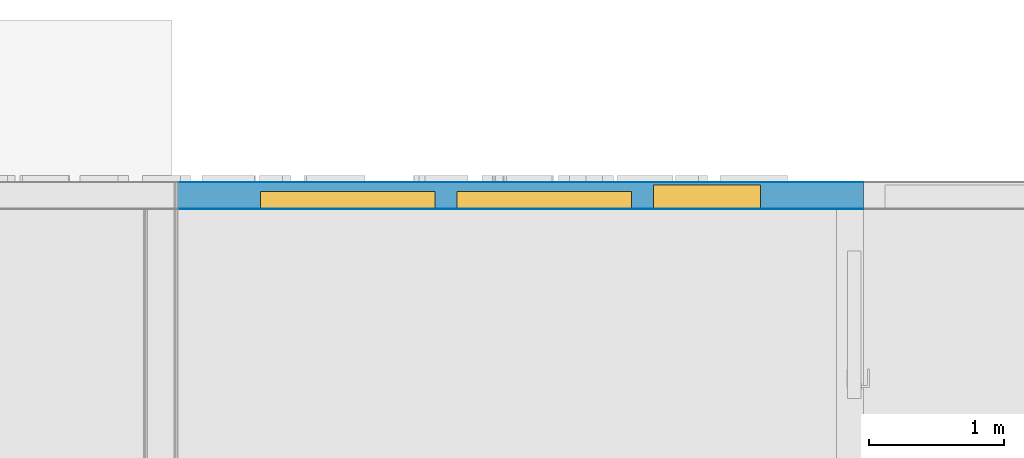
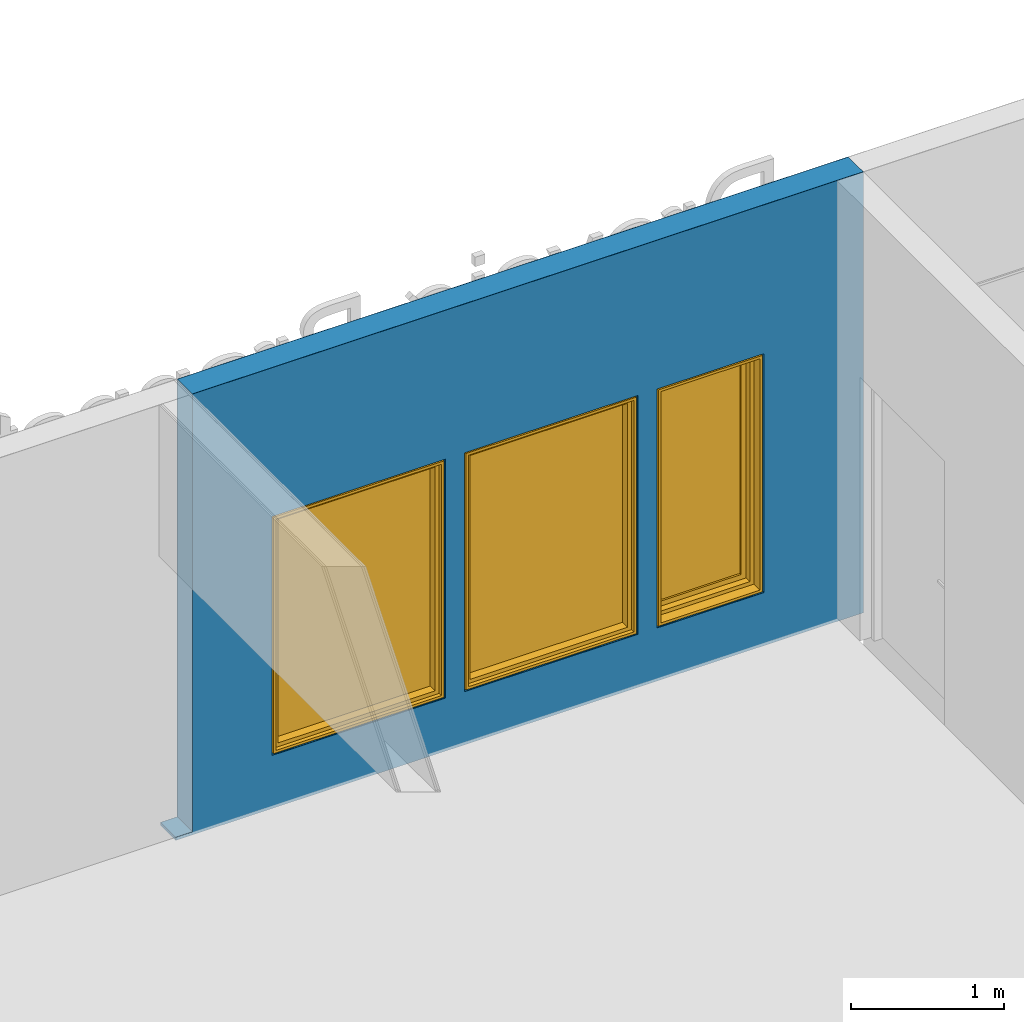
# One storey, part 6 of 12: 3 building element parts, 3 windows, 3 openings, 1 element without a shape of its own.
"""IFC4 building model written with IfcOpenShell, lengths in millimetres."""

import ifcopenshell
import ifcopenshell.guid

model = None  # the IFC model being written
_history = None  # IfcOwnerHistory: only IFC2X3 demands one
_inside = {}  # id of a spatial element -> (the spatial element, [elements in it])
_under = {}  # id of a project, library or spatial element -> (it, [spatial elements below it])
_declared = {}  # id of a project -> (the project, [libraries it declares])
_typed = {}  # id of a type object -> (the type object, [elements of that type])
_made_of = {}  # id of a material, layer set ... -> (it, [elements and type objects made of it])


def new_model(schema):
    """Start an empty IFC model of exactly this schema.

    Asked for "IFC4X3", IfcOpenShell would pick the latest addendum, in which some entities
    have other attributes; the version numbers below select the first issue.
    IFC2X3 requires an IfcOwnerHistory on every rooted entity: one is made here for all.
    """
    global model, _history
    if schema == "IFC4X3":
        model = ifcopenshell.file(schema_version=(4, 3, 0, 0))
    else:
        model = ifcopenshell.file(schema=schema)
    _inside.clear()
    _under.clear()
    _declared.clear()
    _typed.clear()
    _made_of.clear()
    _history = None
    if model.schema == "IFC2X3":
        org = make("IfcOrganization", Name="unknown")
        user = make(
            "IfcPersonAndOrganization",
            ThePerson=make("IfcPerson", FamilyName="unknown"),
            TheOrganization=org,
        )
        app = make(
            "IfcApplication",
            ApplicationDeveloper=org,
            Version="unknown",
            ApplicationFullName="unknown",
            ApplicationIdentifier="unknown",
        )
        _history = make(
            "IfcOwnerHistory",
            OwningUser=user,
            OwningApplication=app,
            ChangeAction="ADDED",
            CreationDate=0,
        )
    return model


def make(cls, **values):
    """One entity of the class cls with the attributes given. An attribute that is None is left unset."""
    return model.create_entity(
        cls, **{name: value for name, value in values.items() if value is not None}
    )


def entity(cls, *values):
    """Any entity or typed value of the class cls, its attributes in the order of the schema. None: left unset."""
    e = model.create_entity(cls)
    for i, value in enumerate(values):
        if value is not None:
            e[i] = value
    return e


def rooted(cls, **values):
    """An entity with a GlobalId (a new one), such as an element, a storey or a relation."""
    return make(cls, GlobalId=ifcopenshell.guid.new(), OwnerHistory=_history, **values)


def si_unit(unit_type, name, prefix=None):
    """IfcSIUnit, for example si_unit("LENGTHUNIT", "METRE", prefix="MILLI")."""
    return make("IfcSIUnit", UnitType=unit_type, Prefix=prefix, Name=name)


def converted_unit(unit_type, name, factor, base, dimensions=None, offset=None):
    """IfcConversionBasedUnit, such as the inch: factor (a typed value) times the base unit."""
    return make(
        "IfcConversionBasedUnit"
        if offset is None
        else "IfcConversionBasedUnitWithOffset",
        ConversionOffset=offset,
        Dimensions=None
        if dimensions is None
        else entity("IfcDimensionalExponents", *dimensions),
        UnitType=unit_type,
        Name=name,
        ConversionFactor=make(
            "IfcMeasureWithUnit", ValueComponent=factor, UnitComponent=base
        ),
    )


def assignment(units):
    """IfcUnitAssignment: the units of a project."""
    return None if units is None else make("IfcUnitAssignment", Units=units)


def point(xyz):
    """IfcCartesianPoint."""
    return None if xyz is None else make("IfcCartesianPoint", Coordinates=xyz)


def direction(xyz):
    """IfcDirection."""
    return None if xyz is None else make("IfcDirection", DirectionRatios=xyz)


def frame(location, z_axis=None, x_axis=None):
    """IfcAxis2Placement3D, a coordinate frame: its origin and axes. An axis left out is left unset."""
    return make(
        "IfcAxis2Placement3D",
        Location=point(location),
        Axis=direction(z_axis),
        RefDirection=direction(x_axis),
    )


def origin():
    """The frame at (0, 0, 0) with its axes left unset."""
    return frame((0.0, 0.0, 0.0))


def place(relative_to, where):
    """IfcLocalPlacement: puts the frame where relative to a parent placement (None: the world)."""
    return make(
        "IfcLocalPlacement", PlacementRelTo=relative_to, RelativePlacement=where
    )


def context(
    kind, dimensions, precision=None, world=None, true_north=None, identifier=None
):
    """IfcGeometricRepresentationContext, for example the 3D "Model" context."""
    return make(
        "IfcGeometricRepresentationContext",
        ContextIdentifier=identifier,
        ContextType=kind,
        CoordinateSpaceDimension=dimensions,
        Precision=precision,
        WorldCoordinateSystem=world,
        TrueNorth=true_north,
    )


def subcontext(parent, identifier, kind, view, scale=None):
    """IfcGeometricRepresentationSubContext, for example "Body" below "Model"."""
    return make(
        "IfcGeometricRepresentationSubContext",
        ContextIdentifier=identifier,
        ContextType=kind,
        ParentContext=parent,
        TargetScale=scale,
        TargetView=view,
    )


def project(units=None, contexts=None):
    """IfcProject with its units and contexts."""
    return rooted(
        "IfcProject",
        Name="project",
        RepresentationContexts=contexts,
        UnitsInContext=assignment(units),
    )


def spatial(cls, under=None, at=None, **own):
    """A site, building, storey or space (cls), placed at a placement, below another one or the project."""
    s = rooted(cls, ObjectPlacement=at, **own)
    if under is not None:
        _under.setdefault(under.id(), (under, []))[1].append(s)
    return s


def point_list(points):
    """IfcCartesianPointList2D or 3D."""
    cls = (
        "IfcCartesianPointList2D" if len(points[0]) == 2 else "IfcCartesianPointList3D"
    )
    return make(cls, CoordList=points)


def indexed_curve(points, segments=None, self_intersect=None):
    """IfcIndexedPolyCurve: lines and arcs through numbered points (the first is 1)."""
    return make(
        "IfcIndexedPolyCurve",
        Points=point_list(points),
        Segments=segments,
        SelfIntersect=self_intersect,
    )


def outline(outer, holes=None, kind="AREA"):
    """IfcArbitraryClosedProfileDef: a profile drawn as a closed curve; with holes, ...WithVoids."""
    if holes is None:
        return make("IfcArbitraryClosedProfileDef", ProfileType=kind, OuterCurve=outer)
    return make(
        "IfcArbitraryProfileDefWithVoids",
        ProfileType=kind,
        OuterCurve=outer,
        InnerCurves=holes,
    )


def extrude(swept, where, along, depth):
    """IfcExtrudedAreaSolid: the profile swept, set in the frame where, extruded along a direction by depth."""
    return make(
        "IfcExtrudedAreaSolid",
        SweptArea=swept,
        Position=where,
        ExtrudedDirection=direction(along),
        Depth=depth,
    )


def polygons(points, faces, closed=None, point_numbers=None):
    """IfcPolygonalFaceSet: a face is its outer loop, then its inner loops; points numbered from 1."""
    made = []
    for loops in faces:
        if len(loops) == 1:
            made.append(make("IfcIndexedPolygonalFace", CoordIndex=loops[0]))
        else:
            made.append(
                make(
                    "IfcIndexedPolygonalFaceWithVoids",
                    CoordIndex=loops[0],
                    InnerCoordIndices=loops[1:],
                )
            )
    return make(
        "IfcPolygonalFaceSet",
        Coordinates=point_list(points),
        Closed=closed,
        Faces=made,
        PnIndex=point_numbers,
    )


def shape(context_of_items, identifier, shape_type, items):
    """IfcShapeRepresentation: the items that make up one representation, for example the "Body"."""
    return make(
        "IfcShapeRepresentation",
        ContextOfItems=context_of_items,
        RepresentationIdentifier=identifier,
        RepresentationType=shape_type,
        Items=items,
    )


def source(mapping_origin, context_of_items, identifier, shape_type, items):
    """IfcRepresentationMap: a shape defined once, which mapped items show again and again."""
    return make(
        "IfcRepresentationMap",
        MappingOrigin=mapping_origin,
        MappedRepresentation=shape(context_of_items, identifier, shape_type, items),
    )


def transform(
    local_origin,
    x_axis=None,
    y_axis=None,
    z_axis=None,
    scale=None,
    scale2=None,
    scale3=None,
    uniform=True,
):
    """IfcCartesianTransformationOperator3D, or its non-uniform kind. x_axis, y_axis, z_axis: its Axis1, 2, 3."""
    if uniform:
        return make(
            "IfcCartesianTransformationOperator3D",
            Axis1=direction(x_axis),
            Axis2=direction(y_axis),
            LocalOrigin=point(local_origin),
            Scale=scale,
            Axis3=direction(z_axis),
        )
    return make(
        "IfcCartesianTransformationOperator3DnonUniform",
        Axis1=direction(x_axis),
        Axis2=direction(y_axis),
        LocalOrigin=point(local_origin),
        Scale=scale,
        Axis3=direction(z_axis),
        Scale2=scale2,
        Scale3=scale3,
    )


def mapped(mapping_source, mapping_target):
    """IfcMappedItem: shows the shape of a source again, moved by a transform."""
    return make(
        "IfcMappedItem", MappingSource=mapping_source, MappingTarget=mapping_target
    )


def material(Name=None, Category=None):
    """IfcMaterial."""
    return make("IfcMaterial", Name=Name, Category=Category)


def constituent(of_material, Name=None, Category=None, fraction=None):
    """IfcMaterialConstituent: one of the materials an element consists of."""
    return make(
        "IfcMaterialConstituent",
        Name=Name,
        Material=of_material,
        Fraction=fraction,
        Category=Category,
    )


def constituent_set(constituents=None, Name=None):
    """IfcMaterialConstituentSet."""
    return make(
        "IfcMaterialConstituentSet", Name=Name, MaterialConstituents=constituents
    )


def made_of(thing, what):
    """Note that an element or type object is made of a material, layer set ...; save() writes the relation."""
    if what is not None:
        _made_of.setdefault(what.id(), (what, []))[1].append(thing)
    return thing


def type_object(cls, material=None, **own):
    """A type object (cls), such as IfcWallType, which elements share."""
    return made_of(rooted(cls, **own), material)


def type_shapes(of_type, sources):
    """Give a type object the sources (RepresentationMaps) that its elements show as mapped items."""
    of_type.RepresentationMaps = sources


def element(
    cls,
    number,
    at=None,
    inside=None,
    cuts=None,
    type_object=None,
    material=None,
    context=None,
    identifier="Body",
    shape_type=None,
    held_by="IfcProductDefinitionShape",
    body=None,
    shapes=None,
    **own,
):
    """One element of the class cls, such as IfcWall. Its Tag is "e" and its number.

    at: its placement. inside: the storey or other place that contains it. cuts: it is an
    opening in that element (IfcRelVoidsElement). A single representation is given by context,
    identifier, shape_type and body (its items); several are given by shapes. held_by: the class
    of the entity that holds the representations. save() writes the other relations.
    """
    e = rooted(cls, Tag="e%d" % number, ObjectPlacement=at, **own)
    if body is not None:
        shapes = [shape(context, identifier, shape_type, body)]
    if shapes is not None:
        e.Representation = make(held_by, Representations=shapes)
    if inside is not None:
        _inside.setdefault(inside.id(), (inside, []))[1].append(e)
    if cuts is not None:
        rooted(
            "IfcRelVoidsElement", RelatingBuildingElement=cuts, RelatedOpeningElement=e
        )
    if type_object is not None:
        _typed.setdefault(type_object.id(), (type_object, []))[1].append(e)
    return made_of(e, material)


def fill(opening, filler):
    """IfcRelFillsElement: the door or window that sits in an opening."""
    return rooted(
        "IfcRelFillsElement",
        RelatingOpeningElement=opening,
        RelatedBuildingElement=filler,
    )


def aggregate(whole, parts):
    """IfcRelAggregates: a whole, such as a stair, and the parts it consists of."""
    return rooted("IfcRelAggregates", RelatingObject=whole, RelatedObjects=parts)


def save(model, path):
    """Write the relations noted so far, then the file.

    IfcRelAggregates (storeys below a building ...), IfcRelContainedInSpatialStructure (elements
    in a storey), IfcRelDefinesByType, IfcRelAssociatesMaterial and IfcRelDeclares: one each for
    every whole, place, type object, material and project.
    """
    for whole, parts in _under.values():
        aggregate(whole, parts)
    for where, things in _inside.values():
        rooted(
            "IfcRelContainedInSpatialStructure",
            RelatedElements=things,
            RelatingStructure=where,
        )
    for kind, things in _typed.values():
        rooted("IfcRelDefinesByType", RelatedObjects=things, RelatingType=kind)
    for what, things in _made_of.values():
        rooted("IfcRelAssociatesMaterial", RelatedObjects=things, RelatingMaterial=what)
    for by, libraries in _declared.values():
        rooted("IfcRelDeclares", RelatingContext=by, RelatedDefinitions=libraries)
    model.write(path)


model = new_model("IFC4")

# Units and contexts
model_context = context("Model", 3, precision=0.01, world=origin(), true_north=direction((0.0, 1.0)))
body_context = subcontext(model_context, "Body", "Model", "MODEL_VIEW")
ifc_project = project(units=[si_unit("LENGTHUNIT", "METRE", prefix="MILLI"), si_unit("AREAUNIT", "SQUARE_METRE"), si_unit("VOLUMEUNIT", "CUBIC_METRE"), converted_unit("PLANEANGLEUNIT", "DEGREE", entity("IfcPlaneAngleMeasure", 0.017453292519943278), si_unit("PLANEANGLEUNIT", "RADIAN"), dimensions=[0, 0, 0, 0, 0, 0, 0])], contexts=[model_context])

# Site, building, storey
site_placement = place(None, origin())
site = spatial("IfcSite", under=ifc_project, at=site_placement, Name="Tomtens navn", CompositionType="ELEMENT")
building_placement = place(site_placement, origin())
building = spatial("IfcBuilding", under=site, at=building_placement, Name="Byggets navn", CompositionType="ELEMENT")
storey_placement = place(building_placement, frame((0.0, 0.0, 3500.0)))
storey = spatial("IfcBuildingStorey", under=building, at=storey_placement, Name="Level 02", CompositionType="ELEMENT", Elevation=3499.999999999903)

# Window
ifc_material_1 = material(Name="NO_Maling - mørk grå", Category="Overflatebehandling")
ifc_constituent_1 = constituent(ifc_material_1, Name="NO_Maling - mørk grå", Category="Overflatebehandling", fraction=0.39911882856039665)
ifc_material_2 = material(Name="NO_Glass - Klart", Category="Unassigned")
ifc_constituent_2 = constituent(ifc_material_2, Name="NO_Glass - Klart", Category="Unassigned", fraction=0.5520539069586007)
ifc_material_3 = material(Name="Hvit", Category="Paint")
ifc_constituent_3 = constituent(ifc_material_3, Name="Hvit", Category="Paint", fraction=0.048827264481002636)
ifc_constituent_set_1 = constituent_set(constituents=[ifc_constituent_1, ifc_constituent_2, ifc_constituent_3])
ifc_constituent_4 = constituent(ifc_material_1, Name="Frame/Mullion", Category="Overflatebehandling", fraction=0.3207999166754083)
ifc_constituent_5 = constituent(ifc_material_2, Name="Glass", Category="Unassigned", fraction=0.4437246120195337)
ifc_constituent_6 = constituent(ifc_material_3, Name="Frame/Mullion", Category="Paint", fraction=0.23547547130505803)
ifc_constituent_set_2 = constituent_set(constituents=[ifc_constituent_4, ifc_constituent_5, ifc_constituent_6])
window_type_1 = type_object("IfcWindowType", Name="Fastvindu:V01 13x19M", PartitioningType="NOTDEFINED", PredefinedType="WINDOW", material=ifc_constituent_set_2)
shared_shape_1 = source(origin(), body_context, "Body", "SweptSolid", [
    extrude(outline(indexed_curve([(-644.9999999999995, -944.9999999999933), (644.9999999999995, -944.9999999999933), (644.9999999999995, 944.9999999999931), (-644.9999999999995, 944.9999999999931), (-644.9999999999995, -944.9999999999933)], self_intersect=False), holes=[indexed_curve([(594.9999999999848, -895.0000000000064), (-594.9999999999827, -895.0000000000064), (-594.9999999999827, 894.9999999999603), (594.9999999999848, 894.9999999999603), (594.9999999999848, -895.0000000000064)], self_intersect=False)]), frame((655.0, 30.0, 955.0), z_axis=(0.0, 1.0, 0.0), x_axis=(1.0, 0.0, 0.0)), (0.0, 0.0, 1.0), 100.0),
    extrude(outline(indexed_curve([(-10.000000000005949, -594.9999999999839), (9.999999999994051, -594.9999999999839), (10.000000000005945, 594.9999999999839), (-9.999999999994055, 594.9999999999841), (-10.000000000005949, -594.9999999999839)], self_intersect=False)), frame((655.0, 105.0, 60.0), z_axis=(0.0, 0.0, 1.0), x_axis=(0.0, -1.0, 0.0)), (0.0, 0.0, 1.0), 1789.9999999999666),
    extrude(outline(indexed_curve([(-644.9999999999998, -944.9999999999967), (644.9999999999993, -944.999999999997), (644.9999999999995, 944.9999999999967), (-644.9999999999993, 944.999999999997), (-644.9999999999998, -944.9999999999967)], self_intersect=False), holes=[indexed_curve([(-624.9999999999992, 924.9999999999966), (624.9999999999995, 924.9999999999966), (624.9999999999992, -924.9999999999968), (-624.9999999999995, -924.9999999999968), (-624.9999999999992, 924.9999999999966)], self_intersect=False)]), frame((655.0, 0.0, 955.0), z_axis=(0.0, 1.0, 0.0), x_axis=(-1.0, 0.0, 0.0)), (0.0, 0.0, 1.0), 29.999999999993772),
])
type_shapes(window_type_1, [shared_shape_1])
wall_placement = place(storey_placement, frame((63622.353528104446, 22961.466456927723, -24.712443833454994)))
opening_1_placement = place(wall_placement, frame((2183.5000000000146, -100.0, 424.7124438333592)))
window_1_placement = place(opening_1_placement, origin())
window_1 = element("IfcWindow", 1, at=window_1_placement, inside=storey, type_object=window_type_1, material=ifc_constituent_set_1, Name="Fastvindu:V01 13x19M", OverallHeight=1910.000000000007, OverallWidth=1310.0000000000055, PartitioningType="NOTDEFINED", PredefinedType="WINDOW", context=body_context, shape_type="MappedRepresentation", body=[
    mapped(shared_shape_1, transform((0.0, 0.0, 0.0), scale=1.0)),
])

ifc_constituent_7 = constituent(ifc_material_1, Name="NO_Maling - mørk grå", Category="Overflatebehandling", fraction=0.39911882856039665)
ifc_constituent_8 = constituent(ifc_material_2, Name="NO_Glass - Klart", Category="Unassigned", fraction=0.5520539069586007)
ifc_constituent_9 = constituent(ifc_material_3, Name="Hvit", Category="Paint", fraction=0.048827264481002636)
ifc_constituent_set_3 = constituent_set(constituents=[ifc_constituent_7, ifc_constituent_8, ifc_constituent_9])
opening_2_placement = place(wall_placement, frame((728.5000000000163, -100.0, 424.7124438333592)))
window_2_placement = place(opening_2_placement, origin())
window_2 = element("IfcWindow", 2, at=window_2_placement, inside=storey, type_object=window_type_1, material=ifc_constituent_set_3, Name="Fastvindu:V01 13x19M", OverallHeight=1910.000000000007, OverallWidth=1310.0000000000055, PartitioningType="NOTDEFINED", PredefinedType="WINDOW", context=body_context, shape_type="MappedRepresentation", body=[
    mapped(shared_shape_1, transform((0.0, 0.0, 0.0), scale=1.0)),
])

ifc_constituent_10 = constituent(ifc_material_1, Name="NO_Maling - mørk grå", Category="Overflatebehandling", fraction=0.54705609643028)
ifc_constituent_11 = constituent(ifc_material_2, Name="NO_Glass - Klart", Category="Unassigned", fraction=0.32239221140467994)
ifc_constituent_12 = constituent(ifc_material_3, Name="Hvit", Category="Paint", fraction=0.13055169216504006)
ifc_constituent_set_4 = constituent_set(constituents=[ifc_constituent_10, ifc_constituent_11, ifc_constituent_12])
ifc_constituent_13 = constituent(ifc_material_1, Name="Frame/Mullion", Category="Overflatebehandling", fraction=0.4703068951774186)
ifc_constituent_14 = constituent(ifc_material_2, Name="Glass", Category="Unassigned", fraction=0.27716221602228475)
ifc_constituent_15 = constituent(ifc_material_3, Name="Frame/Mullion", Category="Paint", fraction=0.2525308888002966)
ifc_constituent_set_5 = constituent_set(constituents=[ifc_constituent_13, ifc_constituent_14, ifc_constituent_15])
window_type_2 = type_object("IfcWindowType", Name="Åpningsvindu:V04 8x19M", PartitioningType="NOTDEFINED", PredefinedType="WINDOW", material=ifc_constituent_set_5)
shared_shape_2 = source(origin(), body_context, "Body", "SweptSolid", [
    extrude(outline(indexed_curve([(-894.9999999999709, -344.9999999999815), (894.9999999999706, -344.9999999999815), (894.9999999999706, 344.9999999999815), (-894.9999999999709, 344.9999999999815), (-894.9999999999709, -344.9999999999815)], self_intersect=False), holes=[indexed_curve([(854.9999999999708, 304.9999999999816), (854.9999999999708, -304.9999999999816), (-854.9999999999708, -304.9999999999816), (-854.9999999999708, 304.9999999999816), (854.9999999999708, 304.9999999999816)], self_intersect=False)]), frame((405.0, 130.0, 955.0), z_axis=(0.0, 1.0, 0.0), x_axis=(0.0, 0.0, -1.0)), (0.0, 0.0, 1.0), 50.0),
    extrude(outline(indexed_curve([(-394.99999999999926, -945.0000000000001), (394.99999999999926, -945.0000000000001), (394.99999999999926, 944.9999999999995), (-394.99999999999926, 944.9999999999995), (-394.99999999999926, -945.0000000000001)], self_intersect=False), holes=[indexed_curve([(344.9999999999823, -894.9999999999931), (-344.999999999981, -894.9999999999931), (-344.9999999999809, 894.9999999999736), (344.99999999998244, 894.9999999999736), (344.9999999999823, -894.9999999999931)], self_intersect=False)]), frame((405.0, 80.0, 955.0), z_axis=(0.0, 1.0, 0.0), x_axis=(1.0, 0.0, 0.0)), (0.0, 0.0, 1.0), 100.0),
    extrude(outline(indexed_curve([(-9.999999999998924, -304.99999999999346), (10.000000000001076, -304.9999999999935), (9.99999999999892, 304.9999999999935), (-10.000000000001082, 304.99999999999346), (-9.999999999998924, -304.99999999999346)], self_intersect=False)), frame((405.0, 155.0, 100.0), z_axis=(0.0, 0.0, 1.0), x_axis=(0.0, -1.0, 0.0)), (0.0, 0.0, 1.0), 1710.0000000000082),
    extrude(outline(indexed_curve([(-394.99999999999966, -944.9999999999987), (394.99999999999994, -944.9999999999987), (394.99999999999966, 944.9999999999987), (-394.99999999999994, 944.9999999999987), (-394.99999999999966, -944.9999999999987)], self_intersect=False), holes=[indexed_curve([(-374.9999999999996, -924.999999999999), (-374.99999999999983, 924.999999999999), (374.99999999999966, 924.999999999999), (374.9999999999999, -924.999999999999), (-374.9999999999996, -924.999999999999)], self_intersect=False)]), frame((405.0, 0.0, 955.0), z_axis=(0.0, 1.0, 0.0), x_axis=(-1.0, 0.0, 0.0)), (0.0, 0.0, 1.0), 80.00000000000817),
])
type_shapes(window_type_2, [shared_shape_2])
opening_3_placement = place(wall_placement, frame((3638.5000000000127, -100.0, 424.7124438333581)))
window_3_placement = place(opening_3_placement, origin())
window_3 = element("IfcWindow", 3, at=window_3_placement, inside=storey, type_object=window_type_2, material=ifc_constituent_set_4, Name="Åpningsvindu:V04 8x19M", OverallHeight=1910.0000000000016, OverallWidth=809.9999999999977, PartitioningType="NOTDEFINED", PredefinedType="WINDOW", context=body_context, shape_type="MappedRepresentation", body=[
    mapped(shared_shape_2, transform((0.0, 0.0, 0.0), scale=1.0)),
])

# Wall, opening
wall_type = type_object("IfcWallType", Name="Basic Wall:YV02 Sandwichvegg 200 rød", PredefinedType="STANDARD")
wall = element("IfcWall", 4, at=wall_placement, inside=storey, type_object=wall_type, Name="Basic Wall:YV02 Sandwichvegg 200 rød", PredefinedType="NOTDEFINED")
opening_1 = element("IfcOpeningElement", 5, at=opening_1_placement, cuts=wall, Name="Fastvindu:V01 13x19M:1", PredefinedType="OPENING", context=body_context, shape_type="SweptSolid", body=[
    extrude(outline(indexed_curve([(0.0, 7.038636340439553e-12), (1910.000000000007, 7.038636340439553e-12), (1910.000000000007, 1310.0000000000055), (0.0, 1310.0000000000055), (0.0, 7.038636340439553e-12)], self_intersect=False)), frame((0.0, 0.0, 0.0), z_axis=(0.0, 1.0, 0.0), x_axis=(0.0, 0.0, 1.0)), (0.0, 0.0, 1.0), 200.0),
])

fill(opening_1, window_1)

# Opening
opening_2 = element("IfcOpeningElement", 6, at=opening_2_placement, cuts=wall, Name="Fastvindu:V01 13x19M:1", PredefinedType="OPENING", context=body_context, shape_type="SweptSolid", body=[
    extrude(outline(indexed_curve([(0.0, 7.038636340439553e-12), (1910.000000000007, 7.038636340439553e-12), (1910.000000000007, 1310.0000000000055), (0.0, 1310.0000000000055), (0.0, 7.038636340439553e-12)], self_intersect=False)), frame((0.0, 0.0, 0.0), z_axis=(0.0, 1.0, 0.0), x_axis=(0.0, 0.0, 1.0)), (0.0, 0.0, 1.0), 200.0),
])

fill(opening_2, window_2)

opening_3 = element("IfcOpeningElement", 7, at=opening_3_placement, cuts=wall, Name="Åpningsvindu:V04 8x19M:1", PredefinedType="OPENING", context=body_context, shape_type="SweptSolid", body=[
    extrude(outline(indexed_curve([(0.0, -4.627119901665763e-31), (1910.0000000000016, -4.627119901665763e-31), (1910.0000000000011, 809.9999999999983), (0.0, 809.9999999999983), (0.0, -4.627119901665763e-31)], self_intersect=False)), frame((0.0, 0.0, 0.0), z_axis=(0.0, 1.0, 0.0), x_axis=(0.0, 0.0, 1.0)), (0.0, 0.0, 1.0), 200.0),
])

fill(opening_3, window_3)

# Building element part
ifc_material_4 = material(Name="NO_Maling - rød", Category="Overflatebehandling")
building_element_part_1_placement = place(wall_placement, frame((0.0, 98.0, 0.0)))
building_element_part_1 = element("IfcBuildingElementPart", 8, at=building_element_part_1_placement, material=ifc_material_4, Name="NO_Maling - rød", context=body_context, shape_type="Tessellation", body=[
    polygons([(-1.7897148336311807e-11, -3.637978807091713e-12, 24.712443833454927), (125.99999999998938, -3.637978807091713e-12, 24.712443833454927), (125.99999999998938, 1.999999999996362, 24.712443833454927), (-1.789680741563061e-11, 1.999999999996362, 24.712443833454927), (5199.9999999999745, -3.637978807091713e-12, 0.0), (-1.7897148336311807e-11, -3.637978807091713e-12, 0.0), (-1.789680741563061e-11, 1.999999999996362, 0.0), (5199.9999999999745, 1.999999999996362, 0.0), (5199.999999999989, -3.637978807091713e-12, 24.712443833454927), (5199.999999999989, 1.999999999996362, 24.712443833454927), (5199.999999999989, 1.999999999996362, 2314.71244383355), (5199.9999999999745, 1.999999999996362, 3524.71244383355), (5199.9999999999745, -3.637978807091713e-12, 3524.71244383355), (5199.999999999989, -3.637978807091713e-12, 2314.71244383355), (125.99999999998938, -3.637978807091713e-12, 3524.71244383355), (125.99999999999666, -3.637978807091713e-12, 2314.71244383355), (728.5000000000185, -3.637978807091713e-12, 424.7124438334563), (728.5000000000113, -3.637978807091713e-12, 2314.71244383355), (728.5000000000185, -3.637978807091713e-12, 2334.7124438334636), (2038.5000000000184, -3.637978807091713e-12, 2334.7124438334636), (2038.5000000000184, -3.637978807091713e-12, 2314.71244383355), (2038.5000000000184, -3.637978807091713e-12, 424.7124438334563), (2183.5000000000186, -3.637978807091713e-12, 424.7124438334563), (2183.500000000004, -3.637978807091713e-12, 2314.71244383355), (2183.5000000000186, -3.637978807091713e-12, 2334.7124438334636), (3493.5000000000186, -3.637978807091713e-12, 2334.7124438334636), (3493.5000000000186, -3.637978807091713e-12, 2314.71244383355), (3493.5000000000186, -3.637978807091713e-12, 424.7124438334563), (3638.5000000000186, -3.637978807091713e-12, 424.7124438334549), (3638.500000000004, -3.637978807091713e-12, 2314.71244383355), (3638.5000000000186, -3.637978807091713e-12, 2334.712443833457), (4448.500000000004, -3.637978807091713e-12, 2334.712443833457), (4448.500000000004, -3.637978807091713e-12, 2314.71244383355), (4448.500000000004, -3.637978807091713e-12, 424.7124438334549), (125.99999999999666, 1.999999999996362, 2314.71244383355), (125.99999999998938, 1.999999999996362, 3524.71244383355), (4448.500000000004, 1.999999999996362, 424.7124438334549), (4448.500000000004, 1.999999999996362, 2314.71244383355), (4448.500000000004, 1.999999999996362, 2334.712443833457), (3638.5000000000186, 1.999999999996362, 2334.712443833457), (3638.500000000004, 1.999999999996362, 2314.71244383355), (3638.5000000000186, 1.999999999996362, 424.7124438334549), (3493.5000000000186, 1.999999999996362, 424.7124438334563), (3493.5000000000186, 1.999999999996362, 2314.71244383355), (3493.5000000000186, 1.999999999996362, 2334.7124438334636), (2183.5000000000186, 1.999999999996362, 2334.7124438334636), (2183.500000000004, 1.999999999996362, 2314.71244383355), (2183.5000000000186, 1.999999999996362, 424.7124438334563), (2038.5000000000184, 1.999999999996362, 424.7124438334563), (2038.5000000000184, 1.999999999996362, 2314.71244383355), (2038.5000000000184, 1.999999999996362, 2334.7124438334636), (728.5000000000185, 1.999999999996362, 2334.7124438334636), (728.5000000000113, 1.999999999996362, 2314.71244383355), (728.5000000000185, 1.999999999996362, 424.7124438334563)], [[[1, 2, 3, 4]], [[5, 6, 7, 8]], [[6, 1, 4, 7]], [[9, 5, 8, 10, 11, 12, 13, 14]], [[6, 5, 9, 14, 13, 15, 16, 2, 1], [17, 18, 19, 20, 21, 22], [23, 24, 25, 26, 27, 28], [29, 30, 31, 32, 33, 34]], [[8, 7, 4, 3, 35, 36, 12, 11, 10], [37, 38, 39, 40, 41, 42], [43, 44, 45, 46, 47, 48], [49, 50, 51, 52, 53, 54]], [[2, 16, 15, 36, 35, 3]], [[30, 29, 42, 41, 40, 31]], [[29, 34, 37, 42]], [[34, 33, 32, 39, 38, 37]], [[18, 17, 54, 53, 52, 19]], [[17, 22, 49, 54]], [[22, 21, 20, 51, 50, 49]], [[24, 23, 48, 47, 46, 25]], [[23, 28, 43, 48]], [[28, 27, 26, 45, 44, 43]], [[32, 31, 40, 39]], [[20, 19, 52, 51]], [[26, 25, 46, 45]], [[15, 13, 12, 36]]], closed=True),
])

ifc_material_5 = material(Name="Rustfritt Stål", Category="Metal")
building_element_part_2_placement = place(wall_placement, frame((0.0, -100.0, 0.0)))
building_element_part_2 = element("IfcBuildingElementPart", 9, at=building_element_part_2_placement, material=ifc_material_5, Name="Rustfritt Stål", context=body_context, shape_type="Tessellation", body=[
    polygons([(125.99999999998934, 2.000000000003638, 24.712443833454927), (-1.7930558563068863e-11, 2.000000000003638, 24.712443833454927), (-1.7930899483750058e-11, 0.0, 24.712443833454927), (125.99999999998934, 0.0, 24.712443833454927), (-1.7930558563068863e-11, 2.000000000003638, 0.0), (5199.9999999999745, 2.000000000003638, 0.0), (5199.9999999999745, 0.0, 0.0), (-1.7930899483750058e-11, 0.0, 0.0), (5199.999999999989, 2.000000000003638, 24.712443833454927), (5199.999999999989, 2.000000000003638, 2314.71244383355), (5199.9999999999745, 2.000000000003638, 3524.71244383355), (5199.9999999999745, 0.0, 3524.71244383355), (5199.999999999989, 0.0, 2314.71244383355), (5199.999999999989, 0.0, 24.712443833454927), (125.99999999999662, 2.000000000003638, 2314.71244383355), (125.99999999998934, 2.000000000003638, 3524.71244383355), (4448.500000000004, 2.000000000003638, 424.7124438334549), (4448.500000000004, 2.000000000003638, 2314.71244383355), (4448.500000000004, 2.000000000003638, 2334.712443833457), (3638.5000000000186, 2.000000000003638, 2334.712443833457), (3638.500000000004, 2.000000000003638, 2314.71244383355), (3638.5000000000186, 2.000000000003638, 424.7124438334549), (3493.5000000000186, 2.000000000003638, 424.7124438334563), (3493.5000000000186, 2.000000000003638, 2314.71244383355), (3493.5000000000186, 2.000000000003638, 2334.7124438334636), (2183.5000000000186, 2.000000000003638, 2334.7124438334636), (2183.500000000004, 2.000000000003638, 2314.71244383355), (2183.5000000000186, 2.000000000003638, 424.71244383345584), (2038.5000000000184, 2.000000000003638, 424.7124438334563), (2038.5000000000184, 2.000000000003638, 2314.71244383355), (2038.5000000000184, 2.000000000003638, 2334.7124438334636), (728.5000000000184, 2.000000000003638, 2334.7124438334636), (728.5000000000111, 2.000000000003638, 2314.71244383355), (728.5000000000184, 2.000000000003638, 424.71244383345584), (5000.4999999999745, 0.0, 3524.71244383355), (125.99999999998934, 0.0, 3524.71244383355), (125.99999999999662, 0.0, 2314.71244383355), (728.5000000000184, 0.0, 424.7124438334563), (728.5000000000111, 0.0, 2314.71244383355), (728.5000000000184, 0.0, 2334.7124438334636), (2038.5000000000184, 0.0, 2334.7124438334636), (2038.5000000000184, 0.0, 2314.71244383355), (2038.5000000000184, 0.0, 424.7124438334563), (2183.5000000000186, 0.0, 424.7124438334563), (2183.500000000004, 0.0, 2314.71244383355), (2183.5000000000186, 0.0, 2334.7124438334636), (3493.5000000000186, 0.0, 2334.7124438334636), (3493.5000000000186, 0.0, 2314.71244383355), (3493.5000000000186, 0.0, 424.7124438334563), (3638.5000000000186, 0.0, 424.7124438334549), (3638.500000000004, 0.0, 2314.71244383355), (3638.5000000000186, 0.0, 2334.712443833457), (4448.500000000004, 0.0, 2334.712443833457), (4448.500000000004, 0.0, 2314.71244383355), (4448.500000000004, 0.0, 424.7124438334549)], [[[1, 2, 3, 4]], [[5, 6, 7, 8]], [[2, 5, 8, 3]], [[6, 9, 10, 11, 12, 13, 14, 7]], [[6, 5, 2, 1, 15, 16, 11, 10, 9], [17, 18, 19, 20, 21, 22], [23, 24, 25, 26, 27, 28], [29, 30, 31, 32, 33, 34]], [[8, 7, 14, 13, 12, 35, 36, 37, 4, 3], [38, 39, 40, 41, 42, 43], [44, 45, 46, 47, 48, 49], [50, 51, 52, 53, 54, 55]], [[15, 1, 4, 37, 36, 16]], [[22, 21, 20, 52, 51, 50]], [[17, 22, 50, 55]], [[18, 17, 55, 54, 53, 19]], [[34, 33, 32, 40, 39, 38]], [[29, 34, 38, 43]], [[30, 29, 43, 42, 41, 31]], [[28, 27, 26, 46, 45, 44]], [[23, 28, 44, 49]], [[24, 23, 49, 48, 47, 25]], [[20, 19, 53, 52]], [[32, 31, 41, 40]], [[26, 25, 47, 46]], [[11, 16, 36, 35, 12]]], closed=True),
])

ifc_material_6 = material(Name="NO_Isolasjon - Fast", Category="Isolasjon")
building_element_part_3_placement = place(wall_placement, frame((0.0, -98.0, 0.0)))
building_element_part_3 = element("IfcBuildingElementPart", 10, at=building_element_part_3_placement, material=ifc_material_6, Name="NO_Isolasjon - Fast", context=body_context, shape_type="Tessellation", body=[
    polygons([(125.99999999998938, 195.99999999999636, 24.712443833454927), (-1.7897148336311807e-11, 195.99999999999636, 24.712443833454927), (-1.7930558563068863e-11, 0.0, 24.712443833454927), (125.99999999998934, 0.0, 24.712443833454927), (4448.500000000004, 195.99999999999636, 424.7124438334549), (4448.500000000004, 195.99999999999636, 2314.71244383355), (4448.500000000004, 195.99999999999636, 2334.712443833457), (3638.5000000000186, 195.99999999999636, 2334.712443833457), (3638.500000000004, 195.99999999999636, 2314.71244383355), (3638.5000000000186, 195.99999999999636, 424.7124438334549), (3493.5000000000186, 195.99999999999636, 424.7124438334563), (3493.5000000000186, 195.99999999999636, 2314.71244383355), (3493.5000000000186, 195.99999999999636, 2334.7124438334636), (2183.5000000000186, 195.99999999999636, 2334.7124438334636), (2183.500000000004, 195.99999999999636, 2314.71244383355), (2183.5000000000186, 195.99999999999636, 424.7124438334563), (2038.5000000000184, 195.99999999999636, 424.7124438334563), (2038.5000000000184, 195.99999999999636, 2314.71244383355), (2038.5000000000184, 195.99999999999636, 2334.7124438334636), (728.5000000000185, 195.99999999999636, 2334.7124438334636), (728.5000000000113, 195.99999999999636, 2314.71244383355), (728.5000000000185, 195.99999999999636, 424.7124438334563), (5199.9999999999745, 195.99999999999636, 0.0), (-1.7897148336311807e-11, 195.99999999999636, 0.0), (125.99999999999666, 195.99999999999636, 2314.71244383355), (125.99999999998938, 195.99999999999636, 3524.71244383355), (5199.9999999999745, 195.99999999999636, 3524.71244383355), (5199.999999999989, 195.99999999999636, 2314.71244383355), (5199.999999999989, 195.99999999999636, 24.712443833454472), (5199.9999999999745, 0.0, 0.0), (-1.7930558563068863e-11, 0.0, 0.0), (5199.9999999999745, 0.0, 3524.71244383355), (5199.999999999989, 0.0, 2314.71244383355), (5199.999999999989, 0.0, 24.712443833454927), (125.99999999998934, 0.0, 3524.71244383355), (125.99999999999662, 0.0, 2314.71244383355), (728.5000000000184, 0.0, 424.71244383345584), (728.5000000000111, 0.0, 2314.71244383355), (728.5000000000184, 0.0, 2334.7124438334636), (2038.5000000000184, 0.0, 2334.7124438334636), (2038.5000000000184, 0.0, 2314.71244383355), (2038.5000000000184, 0.0, 424.7124438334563), (2183.5000000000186, 0.0, 424.71244383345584), (2183.500000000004, 0.0, 2314.71244383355), (2183.5000000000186, 0.0, 2334.7124438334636), (3493.5000000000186, 0.0, 2334.7124438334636), (3493.5000000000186, 0.0, 2314.71244383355), (3493.5000000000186, 0.0, 424.7124438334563), (3638.5000000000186, 0.0, 424.7124438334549), (3638.500000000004, 0.0, 2314.71244383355), (3638.5000000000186, 0.0, 2334.712443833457), (4448.500000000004, 0.0, 2334.712443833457), (4448.500000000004, 0.0, 2314.71244383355), (4448.500000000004, 0.0, 424.7124438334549)], [[[1, 2, 3, 4]], [[23, 24, 2, 1, 25, 26, 27, 28, 29], [5, 6, 7, 8, 9, 10], [11, 12, 13, 14, 15, 16], [17, 18, 19, 20, 21, 22]], [[24, 23, 30, 31]], [[2, 24, 31, 3]], [[23, 29, 28, 27, 32, 33, 34, 30]], [[31, 30, 34, 33, 32, 35, 36, 4, 3], [37, 38, 39, 40, 41, 42], [43, 44, 45, 46, 47, 48], [49, 50, 51, 52, 53, 54]], [[25, 1, 4, 36, 35, 26]], [[10, 9, 8, 51, 50, 49]], [[5, 10, 49, 54]], [[6, 5, 54, 53, 52, 7]], [[22, 21, 20, 39, 38, 37]], [[17, 22, 37, 42]], [[18, 17, 42, 41, 40, 19]], [[16, 15, 14, 45, 44, 43]], [[11, 16, 43, 48]], [[12, 11, 48, 47, 46, 13]], [[8, 7, 52, 51]], [[20, 19, 40, 39]], [[14, 13, 46, 45]], [[27, 26, 35, 32]]], closed=True),
])

aggregate(wall, [building_element_part_1, building_element_part_2, building_element_part_3])

save(model, "model.ifc")
